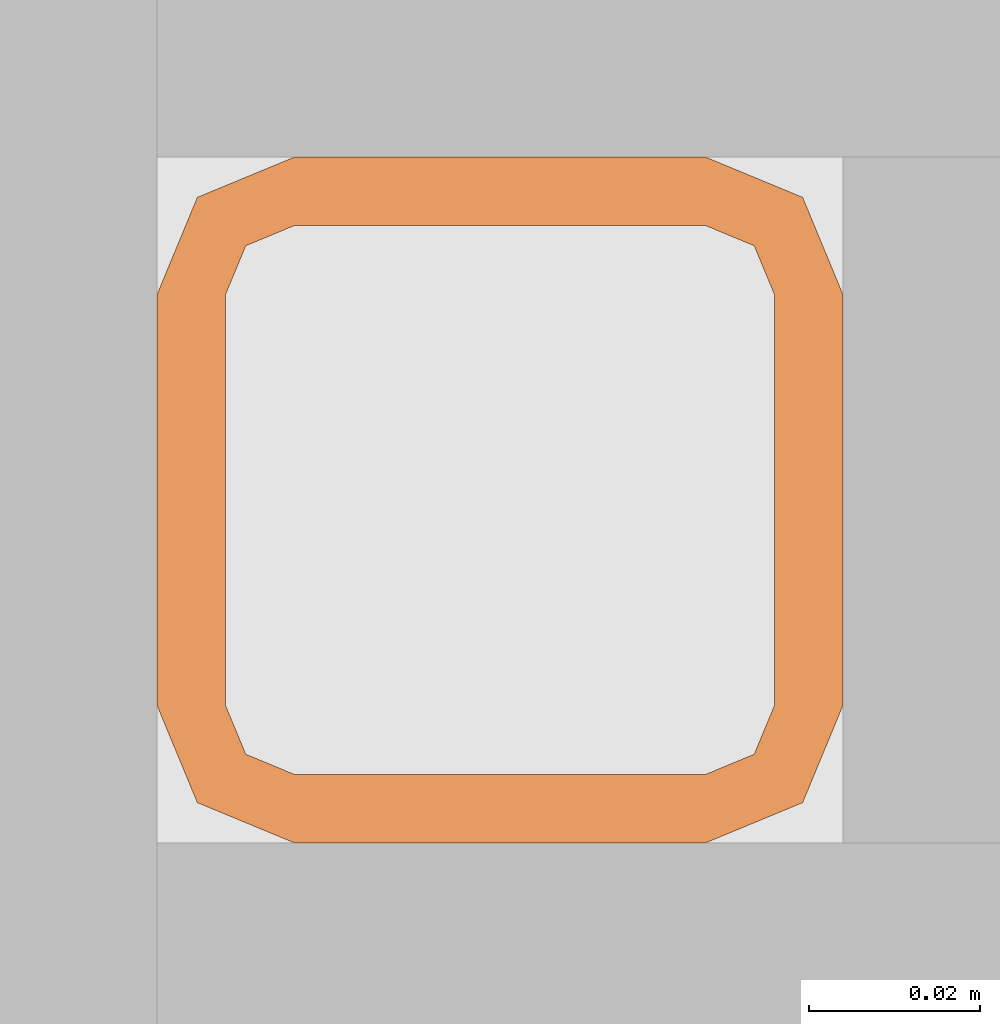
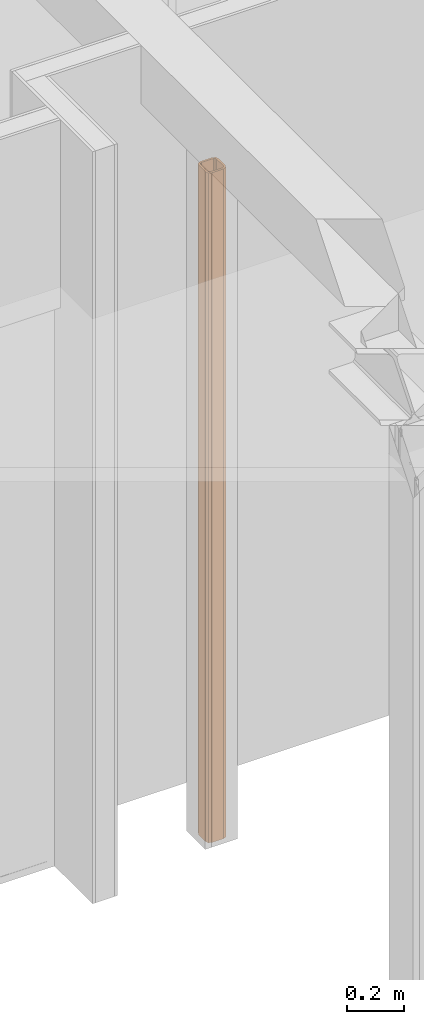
# One storey, part 95 of 99: 1 proxy.
"""IFC2X3 building model written with IfcOpenShell, lengths in millimetres."""

from ifc_helpers import new_model, entity, si_unit, converted_unit, derived_unit, money_unit, direction, frame, origin_with_axes, place, context, subcontext, project, spatial, faceted_brep, material, type_object, element, save


model = new_model("IFC2X3")

# Units and contexts
model_context = context("Model", 3, precision=0.01, world=origin_with_axes(), true_north=direction((0.0, 1.0)))
body_context = subcontext(model_context, "Body", "Model", "MODEL_VIEW")
ifc_project = project(units=[si_unit("LENGTHUNIT", "METRE", prefix="MILLI"), si_unit("AREAUNIT", "SQUARE_METRE"), si_unit("VOLUMEUNIT", "CUBIC_METRE"), converted_unit("PLANEANGLEUNIT", "DEGREE", entity("IfcPlaneAngleMeasure", 0.0174532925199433), si_unit("PLANEANGLEUNIT", "RADIAN"), dimensions=[0, 0, 0, 0, 0, 0, 0]), money_unit("EUR"), converted_unit("TIMEUNIT", "Year", entity("IfcTimeMeasure", 31557600.0), si_unit("TIMEUNIT", "SECOND"), dimensions=[0, 0, 1, 0, 0, 0, 0]), si_unit("MASSUNIT", "GRAM", prefix="KILO"), si_unit("THERMODYNAMICTEMPERATUREUNIT", "DEGREE_CELSIUS"), si_unit("LUMINOUSINTENSITYUNIT", "LUMEN"), si_unit("ENERGYUNIT", "JOULE", prefix="MEGA"), derived_unit("THERMALCONDUCTANCEUNIT", [(si_unit("POWERUNIT", "WATT"), 1), (si_unit("LENGTHUNIT", "METRE"), -1), (si_unit("THERMODYNAMICTEMPERATUREUNIT", "KELVIN"), -1)]), derived_unit("SPECIFICHEATCAPACITYUNIT", [(si_unit("ENERGYUNIT", "JOULE"), 1), (si_unit("MASSUNIT", "GRAM", prefix="KILO"), -1), (si_unit("THERMODYNAMICTEMPERATUREUNIT", "KELVIN"), -1)]), derived_unit("MASSDENSITYUNIT", [(si_unit("MASSUNIT", "GRAM", prefix="KILO"), 1), (si_unit("VOLUMEUNIT", "CUBIC_METRE"), -1)])], contexts=[model_context])

# Site, building, storey
site_placement = place(None, origin_with_axes())
site = spatial("IfcSite", under=ifc_project, at=site_placement, Name="Site", CompositionType="ELEMENT")
building_placement = place(site_placement, origin_with_axes())
building = spatial("IfcBuilding", under=site, at=building_placement, Name="Naam gebouw", CompositionType="ELEMENT")
storey_placement = place(building_placement, frame((0.0, 0.0, 7650.0), z_axis=(0.0, 0.0, 1.0), x_axis=(1.0, 0.0, 0.0)))
storey = spatial("IfcBuildingStorey", under=building, at=storey_placement, Name="2e verdieping N", CompositionType="ELEMENT", Elevation=7650.0)

# Proxy
ifc_material = material(Name="Metaal - Staal AFW")
building_element_proxy_type = type_object("IfcBuildingElementProxyType", Name="Buis vk warmgew kolom 27", PredefinedType="NOTDEFINED")
proxy_placement = place(storey_placement, frame((39600.0, 18025.91242510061, 0.0), z_axis=(0.0, 0.0, 1.0), x_axis=(0.0, -1.0, 0.0)))
element("IfcBuildingElementProxy", 1, at=proxy_placement, inside=storey, type_object=building_element_proxy_type, material=ifc_material, Name="_Boom-x", context=body_context, shape_type="Brep", body=[
    faceted_brep([(24.0, -40.0, 0.0), (24.0, -40.0, 2849.999999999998), (-24.0, -40.0, 2849.999999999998), (-24.0, -40.0, 0.0), (35.31370849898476, -35.31370849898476, 0.0), (35.31370849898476, -35.31370849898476, 2849.999999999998), (40.0, -24.0, 2849.999999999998), (40.00000000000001, 24.0, 2849.999999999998), (35.31370849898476, 35.31370849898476, 2849.999999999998), (24.0, 40.0, 2849.999999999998), (-24.0, 40.00000000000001, 2849.999999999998), (-35.31370849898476, 35.31370849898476, 2849.999999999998), (-40.0, 24.0, 2849.999999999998), (-40.0, -24.0, 2849.999999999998), (-35.31370849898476, -35.31370849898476, 2849.999999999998), (24.0, -32.0, 2849.999999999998), (-24.0, -32.0, 2849.999999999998), (-29.65685424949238, -29.65685424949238, 2849.999999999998), (-32.0, -24.0, 2849.999999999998), (-32.0, 24.0, 2849.999999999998), (-29.65685424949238, 29.65685424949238, 2849.999999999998), (-24.0, 32.0, 2849.999999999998), (24.0, 32.0, 2849.999999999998), (29.65685424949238, 29.65685424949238, 2849.999999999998), (32.0, 24.0, 2849.999999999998), (32.0, -24.0, 2849.999999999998), (29.65685424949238, -29.65685424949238, 2849.999999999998), (-35.31370849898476, -35.31370849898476, 0.0), (-40.0, -24.0, 0.0), (-40.0, 24.0, 0.0), (-35.31370849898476, 35.31370849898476, 0.0), (-24.0, 40.00000000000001, 0.0), (24.0, 40.0, 0.0), (35.31370849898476, 35.31370849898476, 0.0), (40.00000000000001, 24.0, 0.0), (40.0, -24.0, 0.0), (24.0, -32.0, 0.0), (29.65685424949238, -29.65685424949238, 0.0), (32.0, -24.0, 0.0), (32.0, 24.0, 0.0), (29.65685424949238, 29.65685424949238, 0.0), (24.0, 32.0, 0.0), (-24.0, 32.0, 0.0), (-29.65685424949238, 29.65685424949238, 0.0), (-32.0, 24.0, 0.0), (-32.0, -24.0, 0.0), (-29.65685424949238, -29.65685424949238, 0.0), (-24.0, -32.0, 0.0)], [[[0, 1, 2, 3]], [[4, 5, 1, 0]], [[1, 5, 6, 7, 8, 9, 10, 11, 12, 13, 14, 2], [15, 16, 17, 18, 19, 20, 21, 22, 23, 24, 25, 26]], [[3, 2, 14, 27]], [[0, 3, 27, 28, 29, 30, 31, 32, 33, 34, 35, 4], [36, 37, 38, 39, 40, 41, 42, 43, 44, 45, 46, 47]], [[35, 6, 5, 4]], [[34, 7, 6, 35]], [[33, 8, 7, 34]], [[32, 9, 8, 33]], [[31, 10, 9, 32]], [[30, 11, 10, 31]], [[29, 12, 11, 30]], [[28, 13, 12, 29]], [[27, 14, 13, 28]], [[47, 16, 15, 36]], [[46, 17, 16, 47]], [[45, 18, 17, 46]], [[44, 19, 18, 45]], [[43, 20, 19, 44]], [[42, 21, 20, 43]], [[41, 22, 21, 42]], [[40, 23, 22, 41]], [[39, 24, 23, 40]], [[38, 25, 24, 39]], [[37, 26, 25, 38]], [[36, 15, 26, 37]]]),
])

save(model, "model.ifc")
